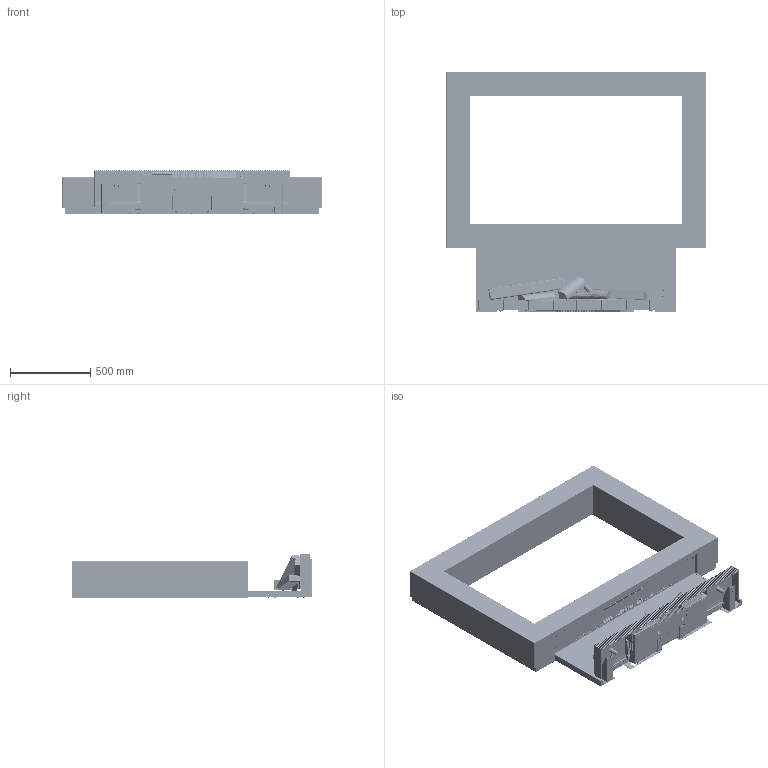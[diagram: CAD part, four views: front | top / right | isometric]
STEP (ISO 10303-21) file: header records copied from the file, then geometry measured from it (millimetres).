
FILE_DESCRIPTION (( 'STEP AP203' ), '1' );
FILE_NAME ('E Series E55 Media Wall.STEP', '2024-03-12T09:33:18', ( '' ), ( '' ), 'SwSTEP 2.0', 'SolidWorks 2020', '' );
FILE_SCHEMA (( 'CONFIG_CONTROL_DESIGN' ));
Length unit declared in the file: millimetre
Products named in the file (84): KF05976; KF06604; KF05848_Built in ; KF05861; KF06611; KF06605; KF06360; KF06088; KF06717_Right - Bend; KF05846; KF05870; KF06545; KF06609; KF05977; KF06573; KF06368; E Series E55 Media Wall; KF04021; KF06124; KF05914; KF05904; KF06607; KF05869; KF05917_Built in; KF05853; KF06717_Left - Bend ; KF04003; KF04164; KF05972; KF06679; KF06370; KF06572; KF04009; KF06369; KF05844; KF06109; KF06460; KF06358; KF05847; KF06111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
Assembly tree (218 placements, depth 7):
  E Series E55 Media Wall
    KF05834_KALFIRE E55 
      KF05850_Inschijner
        KF05976
        KF06110
          KF05853
          KF06109
        KF06111
          KF05852
          KF06109
        KF06679  x2
      KF05836
      KF06215
        KF06362
          KF05846  x2
            KF05847
            KF06057
            KF04020
            KF06545
          KF05912
            KF05904
            KF04020  x9
          KF05903
          KF05919
            KF05902
            KF04020  x3
            KF04060  x4
          KF05910
            KF05901
            KF04079  x2
            KF04020  x3
          KF05909
            KF05900
            KF04079  x2
            KF04020  x3
          KF05917_Built in
            KF05848_Built in 
            KF04020  x2
            KF04003  x4
          KF06368
            KF06364
          KF06370
            KF06369
            KF04020
          KF06125
          KF06124
          KF06460  x2
          KF06681
            KF06683_Built in
            KF06684_Built in
            KF06717_Left - Bend 
            KF06717_Right - Bend
        KF06459
          KF06550
            KF06083_Built in version
              KF05962_Hand set bends
              KF04020  x2
            KF05964
              KF05961
              KF04221  x10
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Bounding box: 1620 x 1501 x 277.5 mm (x, y, z)
Volume: 61797744.2 mm3; surface area: 14954896.6 mm2
Topology: 218 solids, 267 shells, 13709 faces, 34571 edges, 21617 vertices
Faces by surface type: plane 8236, cylinder 3675, cone 1296, bspline 277, torus 151, sphere 74
Entity records: 310670 total; most frequent: CARTESIAN_POINT 73541, ORIENTED_EDGE 46876, DIRECTION 46442, EDGE_CURVE 23438, VECTOR 16676, LINE 16676, AXIS2_PLACEMENT_3D 14883, VERTEX_POINT 14593
